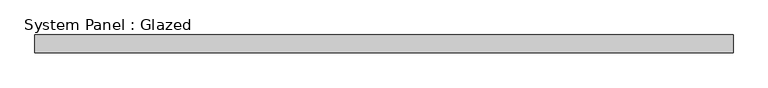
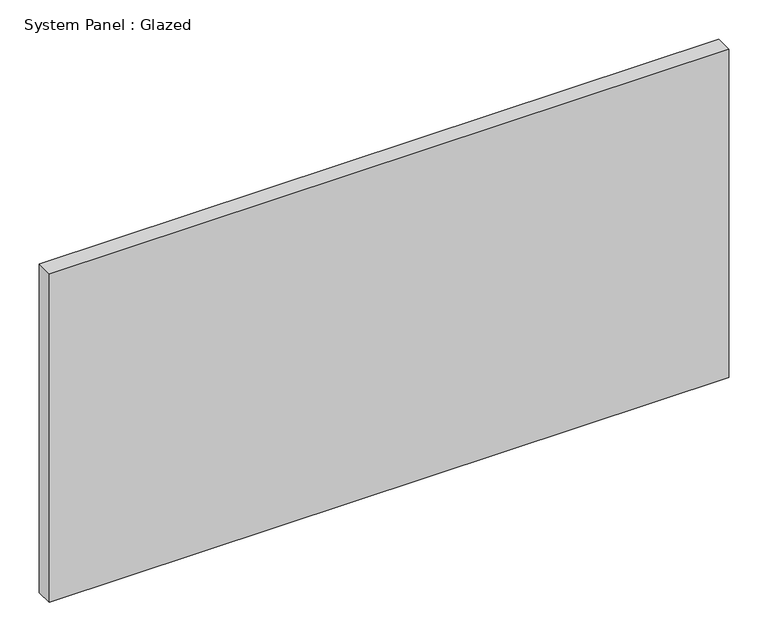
"""IFC4 building model written with IfcOpenShell, lengths in millimetres: plate geometry, System Panel : Glazed."""

from ifc_helpers import new_model, si_unit, origin, origin_with_axes, place, context, project, spatial, polyline, outline, extrude, source, transform, mapped, element, save


def system_panel_glazed_8692a983(model_context):
    return source(origin(), model_context, "Body", "SweptSolid", [
        extrude(outline(polyline([(499.8120624, 19.05), (-499.8120624, 19.05), (-499.8120624, 44.45), (499.8120624, 44.45), (499.8120624, 19.05)])), origin_with_axes(), (0.0, 0.0, 1.0), 511.3509366),
    ])


if __name__ == "__main__":
    model = new_model("IFC4")
    model_context = context("Model", 3, world=origin())
    ifc_project = project(units=[si_unit("LENGTHUNIT", "METRE", prefix="MILLI")], contexts=[model_context])
    site = spatial("IfcSite", under=ifc_project)
    building = spatial("IfcBuilding", under=site)
    placement = place(None, origin())
    system_panel_glazed_shape = system_panel_glazed_8692a983(model_context)
    element("IfcPlate", 1, ObjectType="System Panel : Glazed", at=placement, inside=building, context=model_context, shape_type="MappedRepresentation", body=[
        mapped(system_panel_glazed_shape, transform((0.0, 0.0, 0.0), x_axis=(1.0, 0.0, 0.0), y_axis=(0.0, 1.0, 0.0), z_axis=(0.0, 0.0, 1.0))),
    ])
    save(model, "model.ifc")
